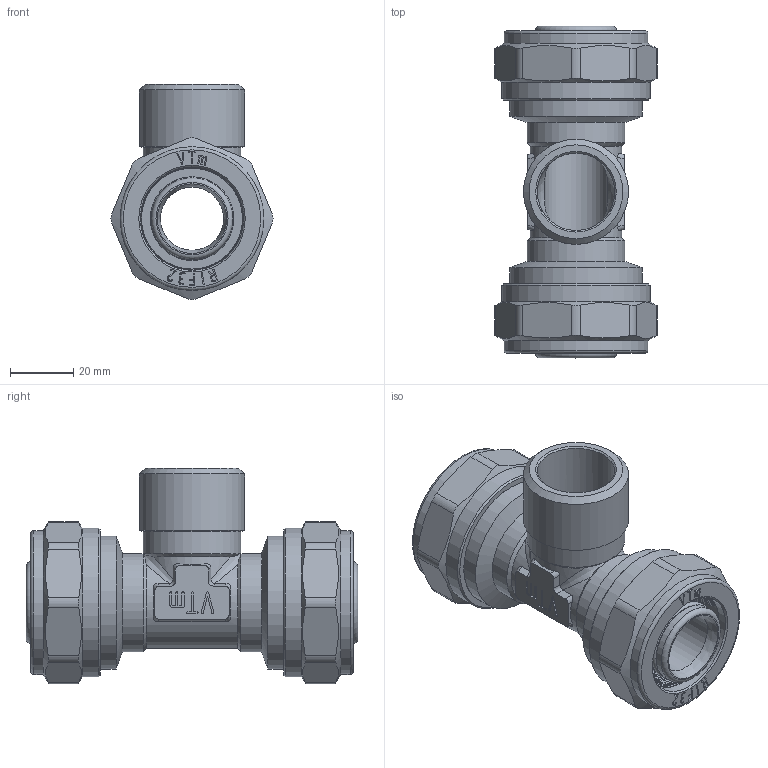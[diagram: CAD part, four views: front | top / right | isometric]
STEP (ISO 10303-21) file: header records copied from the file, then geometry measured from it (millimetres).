
FILE_DESCRIPTION(('STEP AP203'), '1');
FILE_NAME('VTm.333.N.320632', '', ('UNSPECIFIED'), ('UNSPECIFIED'), 'C3D Converter', 'C3D Toolkit', '');
FILE_SCHEMA(('CONFIG_CONTROL_DESIGN'));
Length unit declared in the file: millimetre
Products named in the file (1): ВР.302635.082.000 СБ
Bounding box: 51.3 x 105 x 68.15 mm (x, y, z)
Volume: 86136.1 mm3; surface area: 46774.1 mm2
Topology: 1 solids, 1 shells, 776 faces, 2133 edges, 1407 vertices
Faces by surface type: extrusion 336, plane 249, cylinder 95, torus 58, cone 32, bspline 4, sphere 2
Full cylindrical faces by diameter (mm): 20 x1, 22.8 x8, 24.5 x1, 25.8 x10, 26 x2, 31 x3, 32.1 x2, 32.2 x2, 32.7 x2, 33.249 x1, 40.376 x2, 42 x2, 45.5 x2, 47 x2
Entity records: 29159 total; most frequent: CARTESIAN_POINT 11469, ORIENTED_EDGE 4078, DIRECTION 2532, EDGE_CURVE 2039, VERTEX_POINT 1407, VECTOR 1238, B_SPLINE_CURVE_WITH_KNOTS 1201, EDGE_LOOP 922
